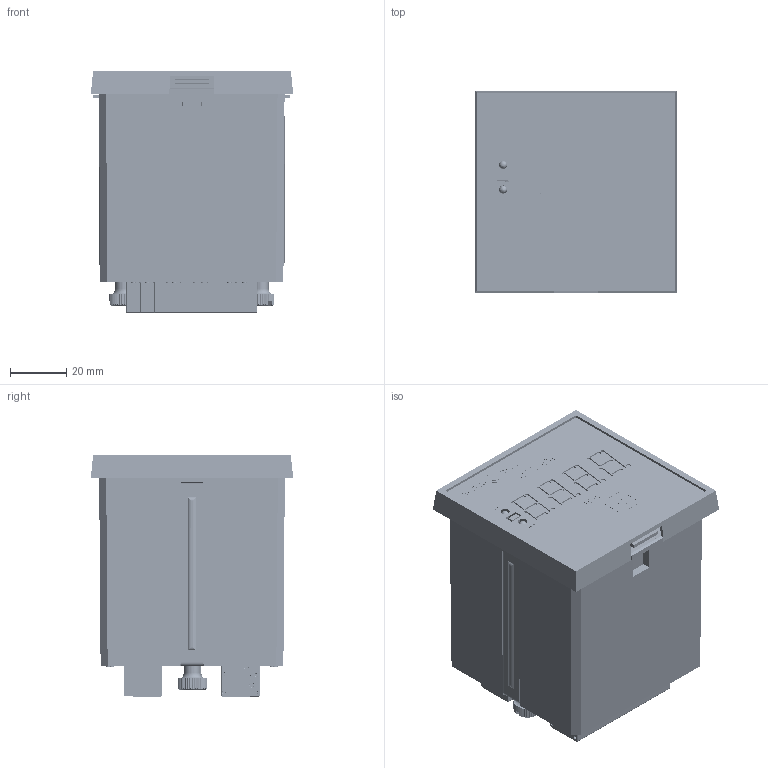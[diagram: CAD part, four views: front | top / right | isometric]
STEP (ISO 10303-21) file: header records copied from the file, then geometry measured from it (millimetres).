
FILE_DESCRIPTION (( 'STEP AP214' ), '1' );
FILE_NAME ('c9256m_72x72x90.STEP', '2025-01-16T06:32:14', ( '' ), ( '' ), 'SwSTEP 2.0', 'SolidWorks 2021', '' );
FILE_SCHEMA (( 'AUTOMOTIVE_DESIGN' ));
Length unit declared in the file: millimetre
Products named in the file (17): FYQ-5641; 扰樖樉; Âèíò êðåïëåíèÿ; Êîïèÿ Êîïèÿ Êðûøêà^Ö9256Ì_step; red-led; Äåòàëü1^Êîïèÿ sborka-FYQ-5641_Ö9256Ì_step; Êîïèÿ Äåòàëü5^DG271R-5.0-9-x_step; áîáûøêà; Êîïèÿ sborka-FYQ-5641^Ö9256Ì_step; c9256m_72x72x90; 櫻蠉錪2^DG271R-5.0-9-x; DG271R-body(back)_step; body_elc_72x72x90_step; DG271R-5.0-9-x_step; ñêîáà-1_step; round led(no glow)_step; 櫻蠉錪6^DG271R-5.0-9-x_step
Assembly tree (43 placements, depth 3):
  Äåòàëü1^Êîïèÿ sborka-FYQ-5641_Ö9256Ì_step
  c9256m_72x72x90
    body_elc_72x72x90_step
    Êîïèÿ Êîïèÿ Êðûøêà^Ö9256Ì_step
    áîáûøêà  x2
    扰樖樉  x2
    Âèíò êðåïëåíèÿ  x2
    round led(no glow)_step  x2
    red-led
    Êîïèÿ sborka-FYQ-5641^Ö9256Ì_step
      FYQ-5641
    DG271R-5.0-9-x_step  x2
      DG271R-body(back)_step
      ñêîáà-1_step
      Êîïèÿ Äåòàëü5^DG271R-5.0-9-x_step
      櫻蠉錪2^DG271R-5.0-9-x
  櫻蠉錪6^DG271R-5.0-9-x_step
Bounding box: 72 x 72.02 x 86.01 mm (x, y, z)
Volume: 75631 mm3; surface area: 93144.2 mm2
Topology: 114 solids, 114 shells, 6592 faces, 16718 edges, 10767 vertices
Faces by surface type: plane 3777, cylinder 1960, cone 448, bspline 387, torus 14, sphere 6
Entity records: 76188 total; most frequent: CARTESIAN_POINT 26550, ORIENTED_EDGE 9102, DIRECTION 7776, EDGE_CURVE 4551, VECTOR 3030, LINE 3030, VERTEX_POINT 2995, AXIS2_PLACEMENT_3D 2373
